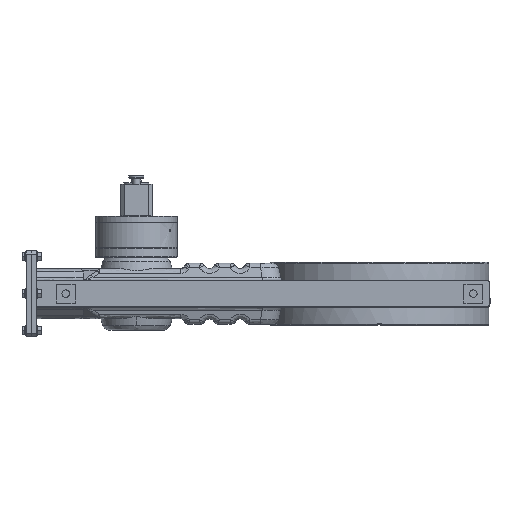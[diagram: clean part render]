
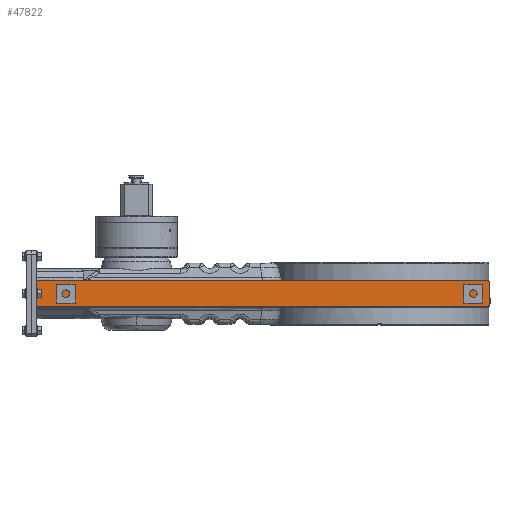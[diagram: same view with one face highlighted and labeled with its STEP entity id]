
A CAD part, left-side view. The second image highlights one B-rep face of the part: STEP entity #47822.
In plain terms, the highlighted free-form (B-spline) face has degree [1, 1] with [2, 2] control points.
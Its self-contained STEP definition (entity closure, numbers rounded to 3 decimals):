
#47685=CARTESIAN_POINT('V23',(0.,21.,
   718.));
#47686=VERTEX_POINT('V23',#47685);
#47693=CARTESIAN_POINT('V22',(0.,16.,723.0)
   );
#47694=VERTEX_POINT('V22',#47693);
#47700=CARTESIAN_POINT('E29',(0.,16.,723.0)
   );
#47701=CARTESIAN_POINT('E29',(0.,21.,
   723.));
#47702=CARTESIAN_POINT('E29',(0.,21.,
   718.));
#47710=(BOUNDED_CURVE()B_SPLINE_CURVE(2,(#47700,#47701,#47702),
   .CIRCULAR_ARC.,.F.,.U.)B_SPLINE_CURVE_WITH_KNOTS((3,3),(2.0,
   13.107),.UNSPECIFIED.)CURVE()
   GEOMETRIC_REPRESENTATION_ITEM()RATIONAL_B_SPLINE_CURVE((1.0,
   0.707,1.0))REPRESENTATION_ITEM('E29'));
#47711=EDGE_CURVE('E29',#47694,#47686,#47710,.T.);
#47723=CARTESIAN_POINT('V21',(0.,-16.0,
   723.));
#47724=VERTEX_POINT('V21',#47723);
#47730=CARTESIAN_POINT('E28',(0.,-16.0,
   723.));
#47731=CARTESIAN_POINT('E28',(0.,16.0,723.)
   );
#47732=B_SPLINE_CURVE_WITH_KNOTS('E28',1,(#47730,#47731),
   .POLYLINE_FORM.,.F.,.U.,(2,2),(2.0,47.255),
   .UNSPECIFIED.);
#47733=EDGE_CURVE('E28',#47724,#47694,#47732,.T.);
#47754=CARTESIAN_POINT('V20',(0.,-21.,
   718.));
#47755=VERTEX_POINT('V20',#47754);
#47761=CARTESIAN_POINT('E27',(0.,-21.,
   718.));
#47762=CARTESIAN_POINT('E27',(0.,-21.,
   723.));
#47763=CARTESIAN_POINT('E27',(0.,-16.0,
   723.));
#47771=(BOUNDED_CURVE()B_SPLINE_CURVE(2,(#47761,#47762,#47763),
   .CIRCULAR_ARC.,.F.,.U.)B_SPLINE_CURVE_WITH_KNOTS((3,3),(2.0,
   13.107),.UNSPECIFIED.)CURVE()
   GEOMETRIC_REPRESENTATION_ITEM()RATIONAL_B_SPLINE_CURVE((1.0,
   0.707,1.0))REPRESENTATION_ITEM('E27'));
#47772=EDGE_CURVE('E27',#47755,#47724,#47771,.T.);
#47784=CARTESIAN_POINT('V19',(0.,-21.,0.0)
   );
#47785=VERTEX_POINT('V19',#47784);
#47791=CARTESIAN_POINT('E26',(0.,-21.,0.0)
   );
#47792=CARTESIAN_POINT('E26',(0.,-21.,
   718.));
#47793=B_SPLINE_CURVE_WITH_KNOTS('E26',1,(#47791,#47792),
   .POLYLINE_FORM.,.F.,.U.,(2,2),(2.0,1017.405),
   .UNSPECIFIED.);
#47794=EDGE_CURVE('E26',#47785,#47755,#47793,.T.);
#47799=CARTESIAN_POINT('F9',(0.,21.5,0.0)
   );
#47800=CARTESIAN_POINT('F9',(0.,-21.5,0.0)
   );
#47801=CARTESIAN_POINT('F9',(0.,21.5,
   723.5));
#47802=CARTESIAN_POINT('F9',(0.,-21.5,
   723.5));
#47803=B_SPLINE_SURFACE_WITH_KNOTS('F9',1,1,((#47799,#47801),(
   #47800,#47802)),.PLANE_SURF.,.F.,.F.,.U.,(2,2),(2,2),(0.0,1.0),
   (0.0,16.826),.UNSPECIFIED.);
#47804=ORIENTED_EDGE('F20',*,*,#47794,.F.);
#47805=CARTESIAN_POINT('V24',(0.,21.,0.0)
   );
#47806=VERTEX_POINT('V24',#47805);
#47807=CARTESIAN_POINT('E31',(0.,-21.,0.0)
   );
#47808=CARTESIAN_POINT('E31',(0.,21.0,0.0));
#47809=B_SPLINE_CURVE_WITH_KNOTS('E31',1,(#47807,#47808),
   .POLYLINE_FORM.,.F.,.U.,(2,2),(0.012,
   0.988),.UNSPECIFIED.);
#47810=EDGE_CURVE('E31',#47785,#47806,#47809,.T.);
#47811=ORIENTED_EDGE('E31',*,*,#47810,.T.);
#47812=CARTESIAN_POINT('E30',(0.,21.,
   718.));
#47813=CARTESIAN_POINT('E30',(0.,21.,0.0)
   );
#47814=B_SPLINE_CURVE_WITH_KNOTS('E30',1,(#47812,#47813),
   .POLYLINE_FORM.,.F.,.U.,(2,2),(2.0,1017.405),
   .UNSPECIFIED.);
#47815=EDGE_CURVE('E30',#47686,#47806,#47814,.T.);
#47816=ORIENTED_EDGE('E30',*,*,#47815,.F.);
#47817=ORIENTED_EDGE('F17',*,*,#47711,.F.);
#47818=ORIENTED_EDGE('F18',*,*,#47733,.F.);
#47819=ORIENTED_EDGE('F19',*,*,#47772,.F.);
#47820=EDGE_LOOP('F9',(#47804,#47811,#47816,#47817,#47818,#47819));
#47821=FACE_OUTER_BOUND('F9',#47820,.F.);
#47822=ADVANCED_FACE('F9',(#47821),#47803,.T.);
